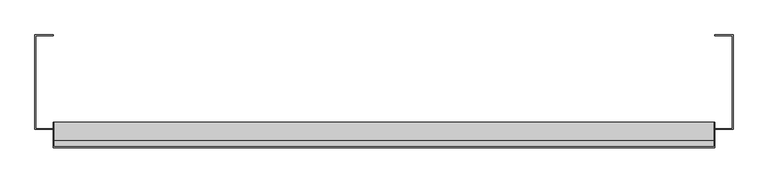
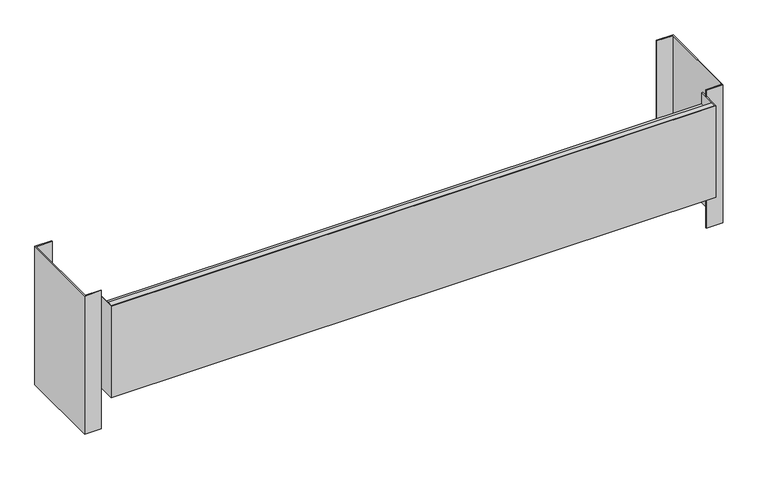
"""IFC4 building model written with IfcOpenShell, lengths in millimetres: furniture geometry."""

from ifc_helpers import new_model, si_unit, frame, origin, place, context, project, spatial, polyline, outline, extrude, source, transform, mapped, element, save


def furniture_c9df3ccb(model_context):
    return source(origin(), model_context, "Body", "SweptSolid", [
        extrude(outline(polyline([(-609.6, -126.20625), (-577.8500008, -126.20625), (-577.8500008, -127.79375), (-608.0125, -127.79375), (-608.0125, -289.7187621), (-577.8500008, -289.7187621), (-577.8500008, -291.3062621), (-609.6, -291.3062621), (-609.6, -126.20625)])), frame((0.0, 0.0, 215.9), z_axis=(0.0, 0.0, 1.0), x_axis=(1.0, 0.0, 0.0)), (0.0, 0.0, 1.0), 279.4),
        extrude(outline(polyline([(577.8500121, -126.20625), (609.6, -126.20625), (609.6, -291.3062621), (577.8500121, -291.3062621), (577.8500121, -289.7187621), (608.0125, -289.7187621), (608.0125, -127.79375), (577.8500121, -127.79375), (577.8500121, -126.20625)])), frame((0.0, 0.0, 215.9), z_axis=(0.0, 0.0, 1.0), x_axis=(1.0, 0.0, 0.0)), (0.0, 0.0, 1.0), 279.4),
        extrude(outline(polyline([(577.8500121, -278.6062561), (577.8500121, -323.05625), (-577.8500008, -323.05625), (-577.8500008, -278.6062561), (-576.2625008, -278.6062561), (-576.2625008, -321.46875), (576.2625121, -321.46875), (576.2625121, -278.6062561), (577.8500121, -278.6062561)])), frame((0.0, 0.0, 298.4499879), z_axis=(0.0, 0.0, 1.0), x_axis=(1.0, 0.0, 0.0)), (0.0, 0.0, 1.0), 184.1500242),
        extrude(outline(polyline([(576.2625121, -311.1182614), (576.2625121, -321.46875), (-576.2625008, -321.46875), (-576.2625008, -311.1182614), (576.2625121, -311.1182614)])), frame((0.0, 0.0, 473.0750121), z_axis=(0.0, 0.0, 1.0), x_axis=(1.0, 0.0, 0.0)), (0.0, 0.0, 1.0), 9.525),
        extrude(outline(polyline([(576.2625121, -278.6062561), (576.2625121, -321.46875), (-576.2625008, -321.46875), (-576.2625008, -278.6062561), (576.2625121, -278.6062561)])), frame((0.0, 0.0, 298.4499879), z_axis=(0.0, 0.0, 1.0), x_axis=(1.0, 0.0, 0.0)), (0.0, 0.0, 1.0), 161.9250363),
    ])


if __name__ == "__main__":
    model = new_model("IFC4")
    model_context = context("Model", 3, world=origin())
    ifc_project = project(units=[si_unit("LENGTHUNIT", "METRE", prefix="MILLI")], contexts=[model_context])
    site = spatial("IfcSite", under=ifc_project)
    building = spatial("IfcBuilding", under=site)
    placement = place(None, origin())
    furniture_shape = furniture_c9df3ccb(model_context)
    element("IfcFurniture", 1, ObjectType="HermanMiller_CoStruc_C2192_CFrameSupport : 11\"H x 24\"D x 48\"W", at=placement, inside=building, context=model_context, shape_type="MappedRepresentation", body=[
        mapped(furniture_shape, transform((0.0, 0.0, 0.0), x_axis=(1.0, 0.0, 0.0), y_axis=(0.0, 1.0, 0.0), z_axis=(0.0, 0.0, 1.0))),
    ])
    save(model, "model.ifc")
